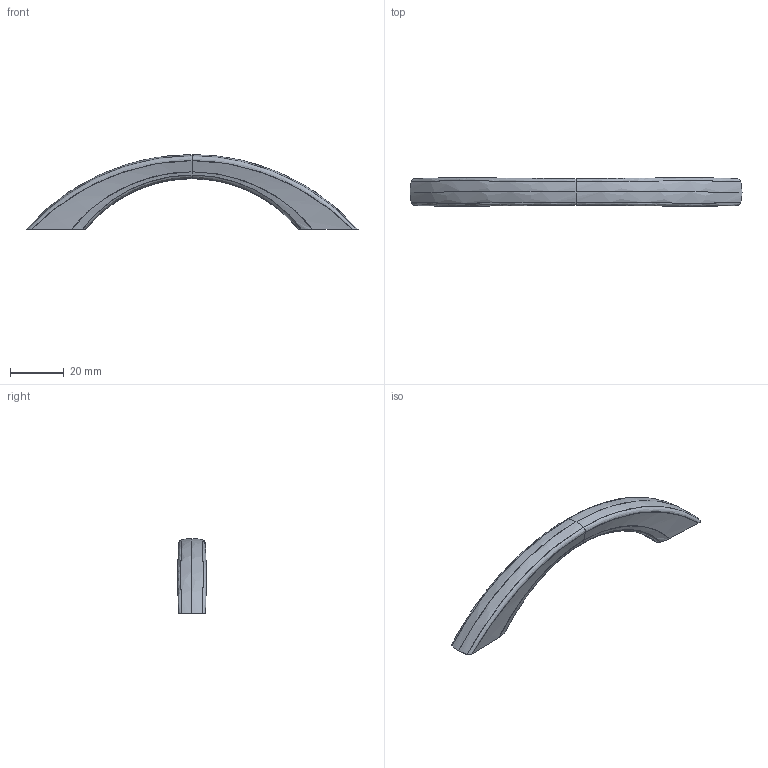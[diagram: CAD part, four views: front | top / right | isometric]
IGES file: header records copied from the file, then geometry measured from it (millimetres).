
Start section: C
Global section: file name: 0563-124.igs; native system: By Siemens PLM Incorporated; preprocessor: XPlus GENERIC/IGES 16.0.42; author: Author; organization: Title; date: 20260104.150650; units: millimetre
Bounding box: 124 x 10.62 x 28 mm (x, y, z)
Surface area: 5043.1 mm2 (no closed solid volume)
Topology: 0 solids, 0 shells, 32 faces, 162 edges, 162 vertices
Faces by surface type: bspline 32
